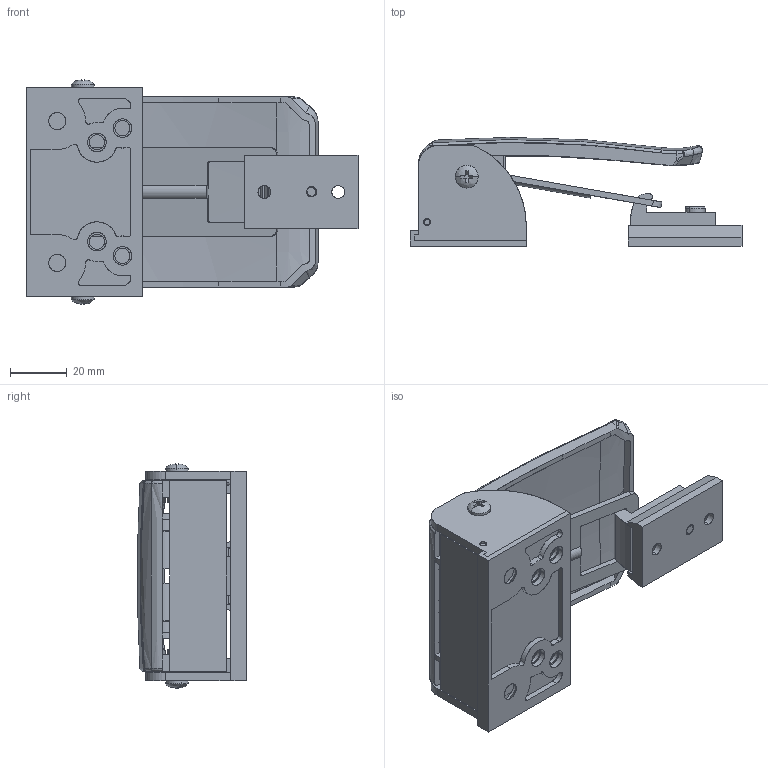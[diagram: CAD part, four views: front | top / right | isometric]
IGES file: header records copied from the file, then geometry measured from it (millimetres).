
Start section: SolidWorks IGES file using analytic representation for surfaces
Global section: file name: D:\尚坤工业图纸\SK1--门锁系列\SK1-600\SK1-600.IGS; native system: SolidWorks 2015; preprocessor: SolidWorks 2015; author: admin; date: 181101.111332; units: millimetre
Bounding box: 117 x 38.39 x 78.96 mm (x, y, z)
Surface area: 51774 mm2 (no closed solid volume)
Topology: 0 solids, 0 shells, 829 faces, 9550 edges, 9546 vertices
Faces by surface type: bspline 539, revolution 290
